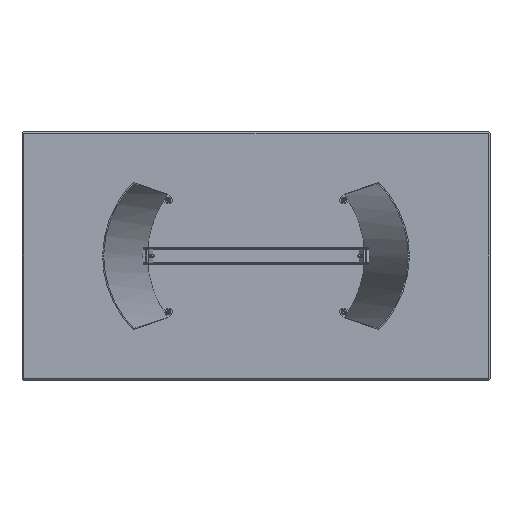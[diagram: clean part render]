
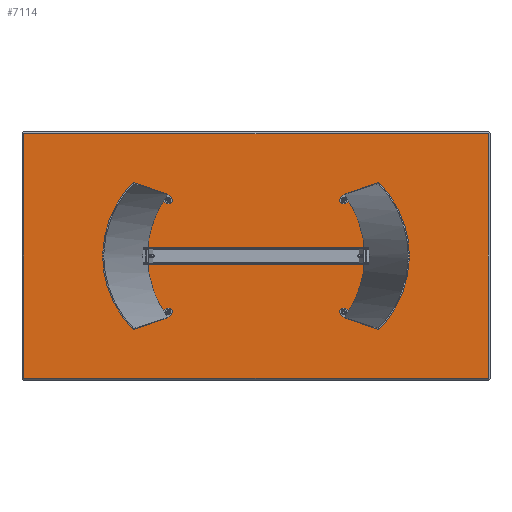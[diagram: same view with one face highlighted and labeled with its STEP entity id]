
A CAD part, front view. The second image highlights one B-rep face of the part: STEP entity #7114.
In plain terms, the highlighted planar face has unit normal (0, -1, 0).
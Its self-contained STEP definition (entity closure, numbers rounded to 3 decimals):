
#347 = EDGE_CURVE ( 'NONE', #5118, #3048, #9258, .T. ) ;
#356 = CARTESIAN_POINT ( 'NONE',  ( -992., 0., 522. ) ) ;
#718 = VERTEX_POINT ( 'NONE', #7947 ) ;
#1337 = LINE ( 'NONE', #2116, #8692 ) ;
#1568 = DIRECTION ( 'NONE',  ( 0., 0., 1. ) ) ;
#1624 = FACE_OUTER_BOUND ( 'NONE', #7212, .T. ) ;
#2068 = EDGE_CURVE ( 'NONE', #3801, #5118, #8898, .T. ) ;
#2114 = ORIENTED_EDGE ( 'NONE', *, *, #347, .T. ) ;
#2116 = CARTESIAN_POINT ( 'NONE',  ( -992., 0., 0. ) ) ;
#2321 = VECTOR ( 'NONE', #8532, 1000. ) ;
#2593 = ORIENTED_EDGE ( 'NONE', *, *, #2068, .T. ) ;
#3048 = VERTEX_POINT ( 'NONE', #356 ) ;
#3801 = VERTEX_POINT ( 'NONE', #5189 ) ;
#4079 = CARTESIAN_POINT ( 'NONE',  ( 0., 0., 522. ) ) ;
#4260 = DIRECTION ( 'NONE',  ( 0., 0., -1. ) ) ;
#4316 = EDGE_CURVE ( 'NONE', #718, #3801, #5625, .T. ) ;
#4410 = DIRECTION ( 'NONE',  ( 1., 0., 0. ) ) ;
#4542 = CARTESIAN_POINT ( 'NONE',  ( 0., 0., 0. ) ) ;
#4635 = DIRECTION ( 'NONE',  ( 0., 0., 1. ) ) ;
#4947 = VECTOR ( 'NONE', #4410, 1000. ) ;
#5118 = VERTEX_POINT ( 'NONE', #7735 ) ;
#5189 = CARTESIAN_POINT ( 'NONE',  ( 992., 0., -522. ) ) ;
#5250 = AXIS2_PLACEMENT_3D ( 'NONE', #4542, #8260, #4635 ) ;
#5625 = LINE ( 'NONE', #8576, #4947 ) ;
#6375 = ORIENTED_EDGE ( 'NONE', *, *, #4316, .T. ) ;
#6671 = EDGE_CURVE ( 'NONE', #3048, #718, #1337, .T. ) ;
#6939 = PLANE ( 'NONE',  #5250 ) ;
#7114 = ADVANCED_FACE ( 'NONE', ( #1624 ), #6939, .F. ) ;
#7212 = EDGE_LOOP ( 'NONE', ( #2593, #2114, #8533, #6375 ) ) ;
#7735 = CARTESIAN_POINT ( 'NONE',  ( 992., 0., 522. ) ) ;
#7947 = CARTESIAN_POINT ( 'NONE',  ( -992., 0., -522. ) ) ;
#8156 = CARTESIAN_POINT ( 'NONE',  ( 992., 0., 0. ) ) ;
#8260 = DIRECTION ( 'NONE',  ( 0., 1., 0. ) ) ;
#8532 = DIRECTION ( 'NONE',  ( -1., 0., 0. ) ) ;
#8533 = ORIENTED_EDGE ( 'NONE', *, *, #6671, .T. ) ;
#8576 = CARTESIAN_POINT ( 'NONE',  ( 0., 0., -522. ) ) ;
#8692 = VECTOR ( 'NONE', #4260, 1000. ) ;
#8898 = LINE ( 'NONE', #8156, #8962 ) ;
#8962 = VECTOR ( 'NONE', #1568, 1000. ) ;
#9258 = LINE ( 'NONE', #4079, #2321 ) ;
